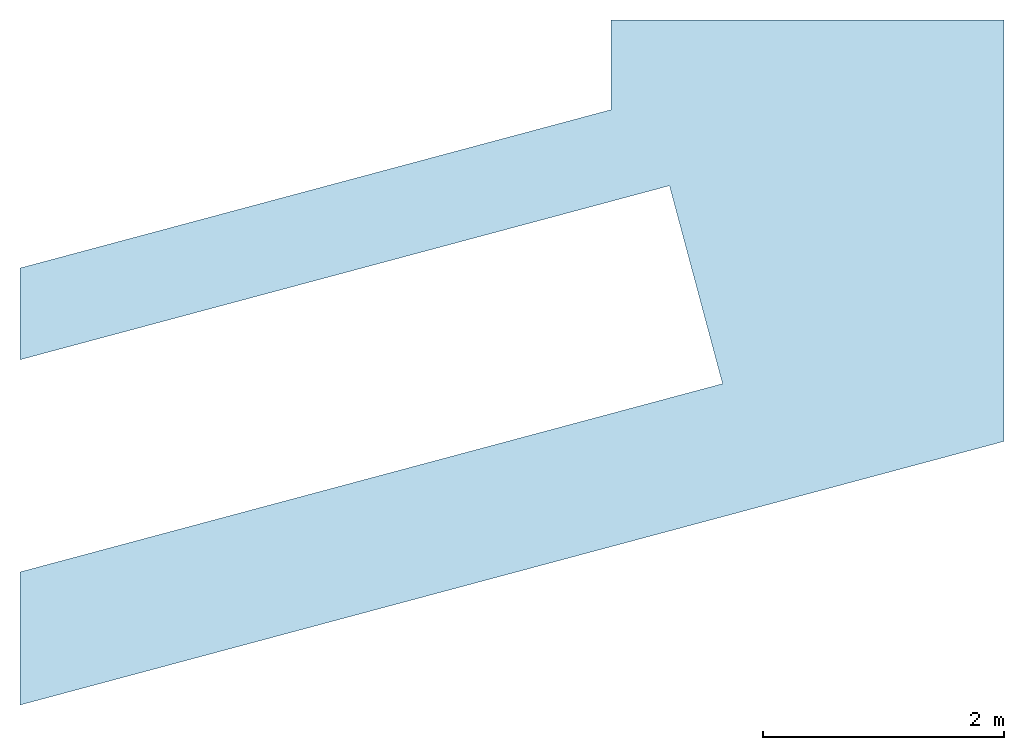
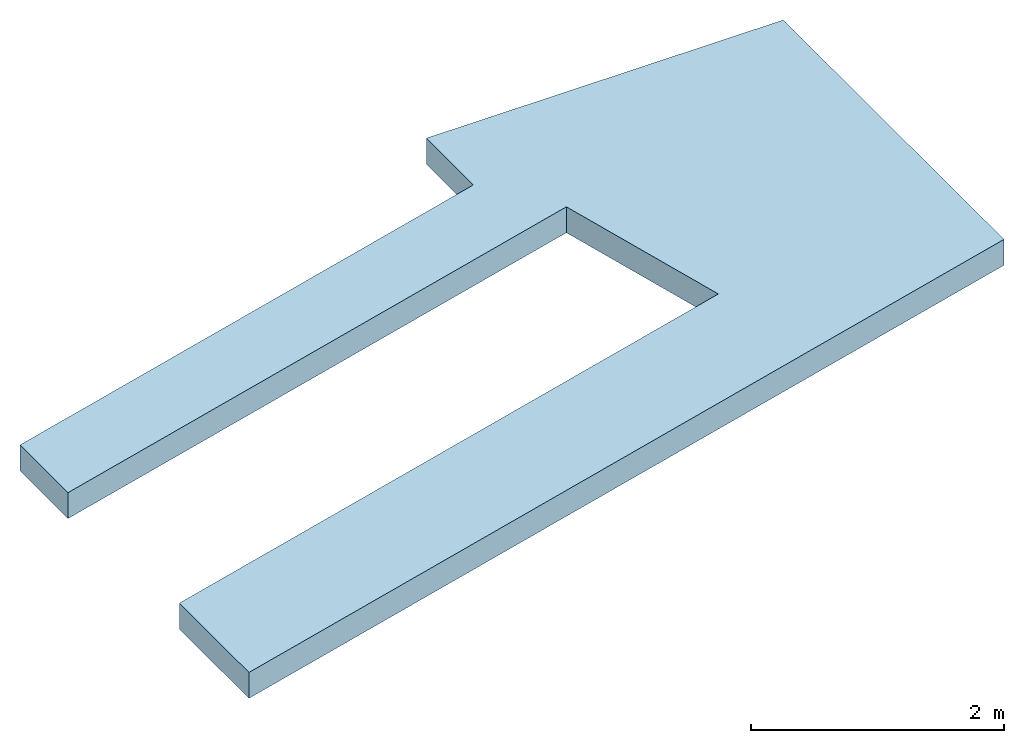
# One storey: 1 slab.
"""IFC2X3 building model written with IfcOpenShell, lengths in millimetres."""

from ifc_helpers import new_model, entity, si_unit, converted_unit, derived_unit, direction, frame, origin, origin_with_axes, place, context, subcontext, project, spatial, faceted_brep, material, layer, layer_set, type_object, element, save


model = new_model("IFC2X3")

# Units and contexts
model_context = context("Model", 3, precision=0.01, world=origin(), true_north=direction((6.12303176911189e-17, 1.0)))
plan_context = context("Plan", 3, precision=1e-05, world=origin_with_axes())
body_context = subcontext(model_context, "Body", "Model", "MODEL_VIEW")
ifc_project = project(units=[converted_unit("PLANEANGLEUNIT", "DEGREE", entity("IfcPositiveLengthMeasure", 0.0174532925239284), si_unit("PLANEANGLEUNIT", "RADIAN"), dimensions=[0, 0, 0, 0, 0, 0, 0]), si_unit("AREAUNIT", "SQUARE_METRE"), si_unit("LENGTHUNIT", "METRE", prefix="MILLI"), si_unit("MASSUNIT", "GRAM", prefix="KILO"), si_unit("POWERUNIT", "WATT"), si_unit("PRESSUREUNIT", "PASCAL"), si_unit("FORCEUNIT", "NEWTON", prefix="KILO"), si_unit("ELECTRICVOLTAGEUNIT", "VOLT"), si_unit("ELECTRICCURRENTUNIT", "AMPERE"), si_unit("THERMODYNAMICTEMPERATUREUNIT", "DEGREE_CELSIUS"), si_unit("TIMEUNIT", "SECOND"), si_unit("VOLUMEUNIT", "CUBIC_METRE"), derived_unit("LINEARVELOCITYUNIT", [(si_unit("LENGTHUNIT", "METRE"), 1), (si_unit("TIMEUNIT", "SECOND"), -1)]), derived_unit("VOLUMETRICFLOWRATEUNIT", [(si_unit("VOLUMEUNIT", "CUBIC_METRE"), 1), (si_unit("TIMEUNIT", "SECOND"), -1)]), derived_unit("THERMALTRANSMITTANCEUNIT", [(si_unit("POWERUNIT", "WATT"), 1), (si_unit("THERMODYNAMICTEMPERATUREUNIT", "KELVIN"), -1), (si_unit("AREAUNIT", "SQUARE_METRE"), -1)]), derived_unit("SOUNDPRESSUREUNIT", [(si_unit("PRESSUREUNIT", "PASCAL"), 1)])], contexts=[model_context, plan_context])

# Site, building, storey
site_placement = place(None, frame((2314154.5009392, 1029894.10887124, 0.0), z_axis=(0.0, 0.0, 1.0), x_axis=(1.0, 0.0, 0.0)))
site = spatial("IfcSite", under=ifc_project, at=site_placement, Name="Default", CompositionType="ELEMENT")
building_placement = place(site_placement, origin_with_axes())
building = spatial("IfcBuilding", under=site, at=building_placement, CompositionType="ELEMENT")
storey_placement = place(building_placement, frame((0.0, 0.0, 8700.0), z_axis=(0.0, 0.0, 1.0), x_axis=(1.0, 0.0, 0.0)))
storey = spatial("IfcBuildingStorey", under=building, at=storey_placement, Name="XX - C +8,70", CompositionType="ELEMENT", Elevation=8700.0)

# Slab
ifc_material = material(Name="Værnes_Betong")
ifc_layer = layer(ifc_material, 250.0)
ifc_layer_set = layer_set([ifc_layer], Name="Floor:Værnes_Betong Floor 250")
slab_type = type_object("IfcSlabType", Name="Floor:Værnes_Betong Floor 250", PredefinedType="FLOOR", material=ifc_layer_set)
slab_placement = place(storey_placement, frame((47559.9019860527, -40093.0958250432, -180.0), z_axis=(0.0, 0.0, 1.0), x_axis=(1.0, 0.0, 0.0)))
element("IfcSlab", 1, at=slab_placement, inside=storey, type_object=slab_type, Name="Floor:Værnes_Betong Floor 250", ObjectType="Floor:Værnes_Betong Floor 250", PredefinedType="FLOOR", context=body_context, shape_type="Brep", body=[
    faceted_brep([(45700.431961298, 7493.79236700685, 250.0), (45700.431961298, 7493.79236700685, -6.53699316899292e-13), (50600.115389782, 8806.65858483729, -6.53699316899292e-13), (50600.115389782, 8806.65858483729, 250.0), (50600.115389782, 9550.89514795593, -6.53699316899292e-13), (50600.115389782, 9550.89514795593, 250.0), (53860.115389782, 9550.89514795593, 250.0), (53860.115389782, 9550.89514795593, -6.53699316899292e-13), (53860.115389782, 6056.70632072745, -6.53699316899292e-13), (53860.115389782, 6056.70632072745, 250.0), (45700.431961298, 3870.32573557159, -6.53699316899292e-13), (45700.431961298, 3870.32573557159, 250.0), (45700.431961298, 4973.68265207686, 250.0), (51526.2505788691, 6534.70604590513, 250.0), (51086.2636113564, 8176.75976333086, 250.0), (45700.431961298, 6733.63052212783, 250.0), (45700.431961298, 6733.63052212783, -2.8421709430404e-14), (51086.2636113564, 8176.75976333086, -2.8421709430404e-14), (51526.2505788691, 6534.70604590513, -2.8421709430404e-14), (45700.431961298, 4973.68265207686, -2.8421709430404e-14)], [[[0, 1, 2, 3]], [[4, 5, 3, 2]], [[6, 7, 8, 9]], [[10, 11, 9, 8]], [[5, 6, 9, 11, 12, 13, 14, 15, 0, 3]], [[7, 4, 2, 1, 16, 17, 18, 19, 10, 8]], [[12, 19, 18, 13]], [[16, 15, 14, 17]], [[13, 18, 17, 14]], [[7, 6, 5, 4]], [[15, 16, 1, 0]], [[19, 12, 11, 10]]], orient=[[False], [False], [False], [False], [False], [False], [False], [False], [False], [False], [False], [False]]),
])

save(model, "model.ifc")
